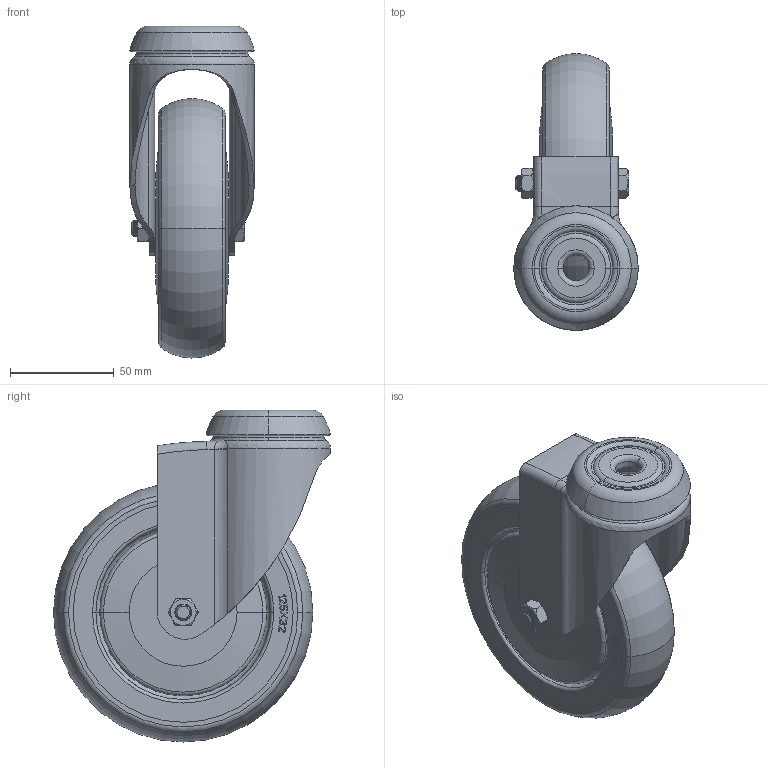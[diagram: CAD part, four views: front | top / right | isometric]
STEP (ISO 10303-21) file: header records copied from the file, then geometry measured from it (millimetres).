
FILE_DESCRIPTION((''),'2;1');
FILE_NAME('125X32HD_ASM','2007-02-22T',('Administrator'),(''),'PRO/ENGINEER BY PARAMETRIC TECHNOLOGY CORPORATION, 2006010','PRO/ENGINEER BY PARAMETRIC TECHNOLOGY CORPORATION, 2006010','');
FILE_SCHEMA(('CONFIG_CONTROL_DESIGN'));
Length unit declared in the file: millimetre
Products named in the file (12): 125X32HDZJ; BJ6; 150X32DBP; 150X32SBP; BJ5; M8X60LS; M8LM; 6202Z; 125X32DL; 125X32NS; 125X32JSG; 125X32HD_ASM
Assembly tree (12 placements, depth 2):
  125X32HD_ASM
    125X32HDZJ
    BJ6
    150X32DBP
    150X32SBP
    BJ5
    M8X60LS
    M8LM
    6202Z
    125X32DL
    125X32NS
    125X32JSG  x2
Bounding box: 60 x 133.5 x 160 mm (x, y, z)
Volume: 327327.8 mm3; surface area: 157562 mm2
Topology: 68 solids, 68 shells, 901 faces, 2381 edges, 1429 vertices
Faces by surface type: plane 447, cylinder 156, sphere 114, torus 99, cone 48, bspline 37
Entity records: 31172 total; most frequent: CARTESIAN_POINT 10764, DIRECTION 4146, ORIENTED_EDGE 4142, EDGE_CURVE 2071, AXIS2_PLACEMENT_3D 1425, VERTEX_POINT 1379, VECTOR 1296, LINE 1296
